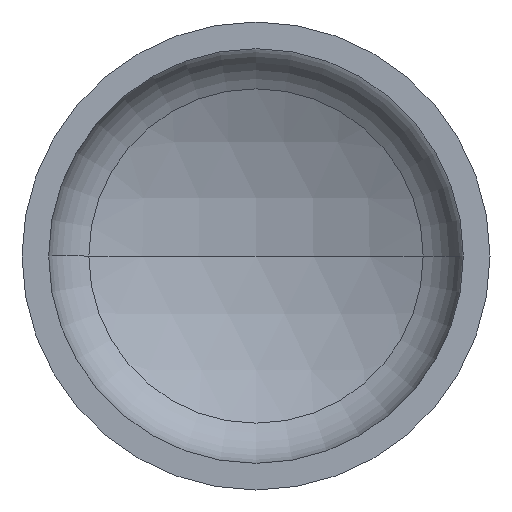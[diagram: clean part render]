
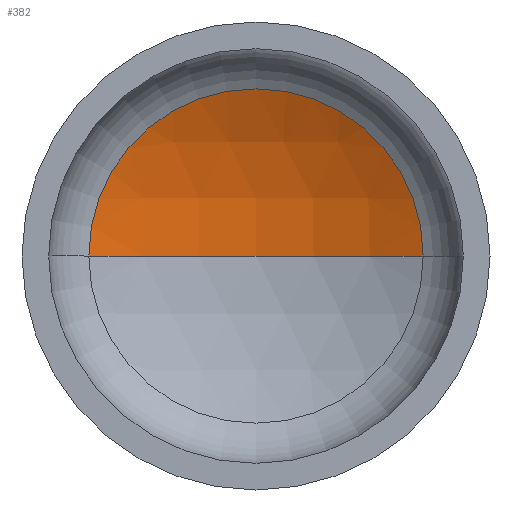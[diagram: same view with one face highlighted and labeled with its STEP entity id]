
A CAD part, front view. The second image highlights one B-rep face of the part: STEP entity #382.
In plain terms, the highlighted spherical face has radius 1600 mm.
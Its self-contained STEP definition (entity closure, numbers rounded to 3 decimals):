
#18 = DIRECTION ( 'NONE',  ( 1., 0., 0. ) ) ;
#23 = SPHERICAL_SURFACE ( 'NONE', #295, 1600. ) ;
#31 = DIRECTION ( 'NONE',  ( 0., 0., 1. ) ) ;
#35 = AXIS2_PLACEMENT_3D ( 'NONE', #37, #31, #18 ) ;
#37 = CARTESIAN_POINT ( 'NONE',  ( 0., -1079.263, 0. ) ) ;
#40 = AXIS2_PLACEMENT_3D ( 'NONE', #226, #391, #255 ) ;
#43 = AXIS2_PLACEMENT_3D ( 'NONE', #217, #213, #215 ) ;
#46 = EDGE_LOOP ( 'NONE', ( #135, #96, #75 ) ) ;
#59 = VERTEX_POINT ( 'NONE', #276 ) ;
#75 = ORIENTED_EDGE ( 'NONE', *, *, #87, .T. ) ;
#87 = EDGE_CURVE ( 'NONE', #88, #119, #233, .T. ) ;
#88 = VERTEX_POINT ( 'NONE', #344 ) ;
#89 = EDGE_CURVE ( 'NONE', #59, #88, #162, .T. ) ;
#96 = ORIENTED_EDGE ( 'NONE', *, *, #89, .T. ) ;
#102 = EDGE_CURVE ( 'NONE', #59, #119, #286, .T. ) ;
#119 = VERTEX_POINT ( 'NONE', #172 ) ;
#135 = ORIENTED_EDGE ( 'NONE', *, *, #102, .F. ) ;
#139 = DIRECTION ( 'NONE',  ( 0., 0., -1. ) ) ;
#145 = DIRECTION ( 'NONE',  ( -1., 0., 0. ) ) ;
#162 = CIRCLE ( 'NONE', #40, 1600. ) ;
#172 = CARTESIAN_POINT ( 'NONE',  ( -714.419, 352.381, 0. ) ) ;
#211 = CARTESIAN_POINT ( 'NONE',  ( 0., -1079.263, 0. ) ) ;
#213 = DIRECTION ( 'NONE',  ( 0., -1., 0. ) ) ;
#215 = DIRECTION ( 'NONE',  ( 1., 0., 0. ) ) ;
#217 = CARTESIAN_POINT ( 'NONE',  ( 0., 352.381, 0. ) ) ;
#226 = CARTESIAN_POINT ( 'NONE',  ( 0., -1079.263, 0. ) ) ;
#233 = CIRCLE ( 'NONE', #43, 714.419 ) ;
#241 = FACE_OUTER_BOUND ( 'NONE', #46, .T. ) ;
#255 = DIRECTION ( 'NONE',  ( -1., 0., 0. ) ) ;
#276 = CARTESIAN_POINT ( 'NONE',  ( 0., 520.737, 0. ) ) ;
#286 = CIRCLE ( 'NONE', #35, 1600. ) ;
#295 = AXIS2_PLACEMENT_3D ( 'NONE', #211, #139, #145 ) ;
#344 = CARTESIAN_POINT ( 'NONE',  ( 714.419, 352.381, 0. ) ) ;
#382 = ADVANCED_FACE ( 'NONE', ( #241 ), #23, .F. ) ;
#391 = DIRECTION ( 'NONE',  ( 0., 0., -1. ) ) ;
